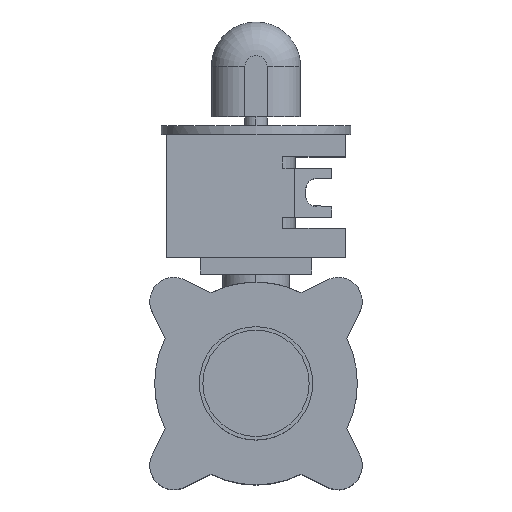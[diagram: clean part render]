
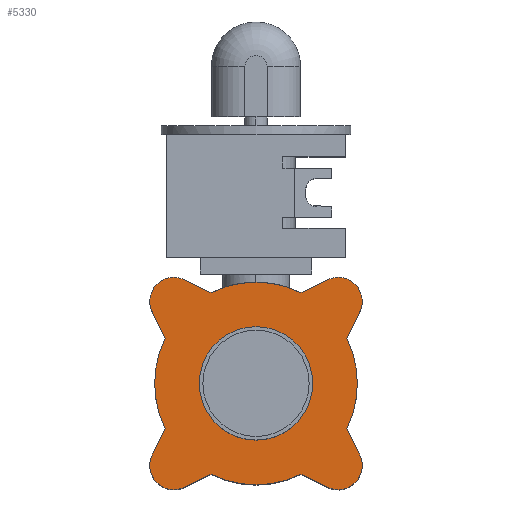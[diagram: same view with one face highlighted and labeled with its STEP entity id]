
A CAD part, top view. The second image highlights one B-rep face of the part: STEP entity #5330.
In plain terms, the highlighted planar face has unit normal (0, 0, 1) as drawn and (-1, 0, 0) by its records, which use the part's own axes.
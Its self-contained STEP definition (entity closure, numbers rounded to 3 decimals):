
#950=CARTESIAN_POINT('',(-75.5,0.,0.));
#960=DIRECTION('',(-1.,0.,0.));
#970=DIRECTION('',(0.,0.,1.));
#980=AXIS2_PLACEMENT_3D('',#950,#960,#970);
#990=CIRCLE('',#980,45.4);
#1000=CARTESIAN_POINT('',(-75.5,14.515,43.017));
#1010=VERTEX_POINT('',#1000);
#1020=CARTESIAN_POINT('',(-75.5,43.017,14.515));
#1030=VERTEX_POINT('',#1020);
#1040=EDGE_CURVE('',#1010,#1030,#990,.T.);
#1660=CARTESIAN_POINT('',(-75.5,14.515,43.017));
#1670=DIRECTION('',(0.,0.326,-0.946));
#1680=VECTOR('',#1670,1.);
#1690=LINE('',#1660,#1680);
#1700=CARTESIAN_POINT('',(-75.5,10.212,55.516));
#1710=VERTEX_POINT('',#1700);
#1720=EDGE_CURVE('',#1710,#1010,#1690,.T.);
#1970=CARTESIAN_POINT('',(-75.5,-43.017,14.515));
#1980=DIRECTION('',(0.,0.946,0.326));
#1990=VECTOR('',#1980,1.);
#2000=LINE('',#1970,#1990);
#2010=CARTESIAN_POINT('',(-75.5,-55.516,10.212));
#2020=VERTEX_POINT('',#2010);
#2030=CARTESIAN_POINT('',(-75.5,-43.017,14.515));
#2040=VERTEX_POINT('',#2030);
#2050=EDGE_CURVE('',#2020,#2040,#2000,.T.);
#2660=CARTESIAN_POINT('',(-75.5,-43.017,-14.515));
#2670=VERTEX_POINT('',#2660);
#2700=CARTESIAN_POINT('',(-75.5,-55.516,-10.212));
#2710=DIRECTION('',(0.,0.946,-0.326));
#2720=VECTOR('',#2710,1.);
#2730=LINE('',#2700,#2720);
#2740=CARTESIAN_POINT('',(-75.5,-55.516,-10.212));
#2750=VERTEX_POINT('',#2740);
#2760=EDGE_CURVE('',#2750,#2670,#2730,.T.);
#3050=CARTESIAN_POINT('',(-75.5,-10.212,55.516));
#3060=VERTEX_POINT('',#3050);
#3090=CARTESIAN_POINT('',(-75.5,0.,52.));
#3100=DIRECTION('',(-1.,0.,0.));
#3110=DIRECTION('',(0.,0.,1.));
#3120=AXIS2_PLACEMENT_3D('',#3090,#3100,#3110);
#3130=CIRCLE('',#3120,10.8);
#3140=EDGE_CURVE('',#3060,#1710,#3130,.T.);
#4180=CARTESIAN_POINT('',(-75.5,0.,-60.65)
);
#4190=DIRECTION('',(1.,0.,-0.));
#4200=DIRECTION('',(0.,0.,1.));
#4210=AXIS2_PLACEMENT_3D('',#4180,#4190,#4200);
#4220=PLANE('',#4210);
#4230=CARTESIAN_POINT('',(-75.5,10.212,-55.516));
#4240=DIRECTION('',(0.,0.326,0.946));
#4250=VECTOR('',#4240,1.);
#4260=LINE('',#4230,#4250);
#4270=CARTESIAN_POINT('',(-75.5,10.212,-55.516));
#4280=VERTEX_POINT('',#4270);
#4290=CARTESIAN_POINT('',(-75.5,14.515,-43.017));
#4300=VERTEX_POINT('',#4290);
#4310=EDGE_CURVE('',#4280,#4300,#4260,.T.);
#4320=ORIENTED_EDGE('',*,*,#4310,.F.);
#4330=CARTESIAN_POINT('',(-75.5,0.,0.));
#4340=DIRECTION('',(-1.,0.,0.));
#4350=DIRECTION('',(0.,0.,1.));
#4360=AXIS2_PLACEMENT_3D('',#4330,#4340,#4350);
#4370=CIRCLE('',#4360,45.4);
#4380=CARTESIAN_POINT('',(-75.5,43.017,-14.515));
#4390=VERTEX_POINT('',#4380);
#4400=EDGE_CURVE('',#4390,#4300,#4370,.T.);
#4410=ORIENTED_EDGE('',*,*,#4400,.T.);
#4420=CARTESIAN_POINT('',(-75.5,55.516,-10.212));
#4430=DIRECTION('',(0.,0.946,0.326));
#4440=VECTOR('',#4430,1.);
#4450=LINE('',#4420,#4440);
#4460=CARTESIAN_POINT('',(-75.5,55.516,-10.212));
#4470=VERTEX_POINT('',#4460);
#4480=EDGE_CURVE('',#4390,#4470,#4450,.T.);
#4490=ORIENTED_EDGE('',*,*,#4480,.F.);
#4500=CARTESIAN_POINT('',(-75.5,52.,0.));
#4510=DIRECTION('',(1.,0.,0.));
#4520=DIRECTION('',(0.,0.,-1.));
#4530=AXIS2_PLACEMENT_3D('',#4500,#4510,#4520);
#4540=CIRCLE('',#4530,10.8);
#4550=CARTESIAN_POINT('',(-75.5,55.516,10.212));
#4560=VERTEX_POINT('',#4550);
#4570=EDGE_CURVE('',#4470,#4560,#4540,.T.);
#4580=ORIENTED_EDGE('',*,*,#4570,.F.);
#4590=CARTESIAN_POINT('',(-75.5,55.516,10.212));
#4600=DIRECTION('',(0.,0.946,-0.326));
#4610=VECTOR('',#4600,1.);
#4620=LINE('',#4590,#4610);
#4630=EDGE_CURVE('',#1030,#4560,#4620,.T.);
#4640=ORIENTED_EDGE('',*,*,#4630,.T.);
#4650=ORIENTED_EDGE('',*,*,#1040,.T.);
#4660=ORIENTED_EDGE('',*,*,#1720,.T.);
#4670=ORIENTED_EDGE('',*,*,#3140,.T.);
#4680=CARTESIAN_POINT('',(-75.5,-10.212,55.516));
#4690=DIRECTION('',(0.,-0.326,-0.946));
#4700=VECTOR('',#4690,1.);
#4710=LINE('',#4680,#4700);
#4720=CARTESIAN_POINT('',(-75.5,-14.515,43.017));
#4730=VERTEX_POINT('',#4720);
#4740=EDGE_CURVE('',#3060,#4730,#4710,.T.);
#4750=ORIENTED_EDGE('',*,*,#4740,.F.);
#4760=CARTESIAN_POINT('',(-75.5,0.,0.));
#4770=DIRECTION('',(-1.,0.,0.));
#4780=DIRECTION('',(0.,0.,1.));
#4790=AXIS2_PLACEMENT_3D('',#4760,#4770,#4780);
#4800=CIRCLE('',#4790,45.4);
#4810=EDGE_CURVE('',#2040,#4730,#4800,.T.);
#4820=ORIENTED_EDGE('',*,*,#4810,.T.);
#4830=ORIENTED_EDGE('',*,*,#2050,.T.);
#4840=CARTESIAN_POINT('',(-75.5,-52.,0.));
#4850=DIRECTION('',(1.,0.,0.));
#4860=DIRECTION('',(0.,0.,-1.));
#4870=AXIS2_PLACEMENT_3D('',#4840,#4850,#4860);
#4880=CIRCLE('',#4870,10.8);
#4890=EDGE_CURVE('',#2020,#2750,#4880,.T.);
#4900=ORIENTED_EDGE('',*,*,#4890,.F.);
#4910=ORIENTED_EDGE('',*,*,#2760,.F.);
#4920=CARTESIAN_POINT('',(-75.5,0.,0.));
#4930=DIRECTION('',(-1.,0.,0.));
#4940=DIRECTION('',(0.,0.,1.));
#4950=AXIS2_PLACEMENT_3D('',#4920,#4930,#4940);
#4960=CIRCLE('',#4950,45.4);
#4970=CARTESIAN_POINT('',(-75.5,-14.515,-43.017));
#4980=VERTEX_POINT('',#4970);
#4990=EDGE_CURVE('',#4980,#2670,#4960,.T.);
#5000=ORIENTED_EDGE('',*,*,#4990,.T.);
#5010=CARTESIAN_POINT('',(-75.5,-10.212,-55.516));
#5020=DIRECTION('',(0.,0.326,-0.946));
#5030=VECTOR('',#5020,1.);
#5040=LINE('',#5010,#5030);
#5050=CARTESIAN_POINT('',(-75.5,-10.212,-55.516));
#5060=VERTEX_POINT('',#5050);
#5070=EDGE_CURVE('',#4980,#5060,#5040,.T.);
#5080=ORIENTED_EDGE('',*,*,#5070,.F.);
#5090=CARTESIAN_POINT('',(-75.5,0.,-52.));
#5100=DIRECTION('',(1.,0.,0.));
#5110=DIRECTION('',(0.,0.,-1.));
#5120=AXIS2_PLACEMENT_3D('',#5090,#5100,#5110);
#5130=CIRCLE('',#5120,10.8);
#5140=EDGE_CURVE('',#5060,#4280,#5130,.T.);
#5150=ORIENTED_EDGE('',*,*,#5140,.F.);
#5160=EDGE_LOOP('',(#5150,#5080,#5000,#4910,#4900,#4830,#4820,#4750,
#4670,#4660,#4650,#4640,#4580,#4490,#4410,#4320));
#5170=FACE_OUTER_BOUND('',#5160,.T.);
#5180=CARTESIAN_POINT('',(-75.5,0.,0.));
#5190=DIRECTION('',(-1.,0.,0.));
#5200=DIRECTION('',(0.,-0.707,0.707));
#5210=AXIS2_PLACEMENT_3D('',#5180,#5190,#5200);
#5220=CIRCLE('',#5210,25.4);
#5230=CARTESIAN_POINT('',(-75.5,17.961,-17.961));
#5240=VERTEX_POINT('',#5230);
#5250=CARTESIAN_POINT('',(-75.5,-17.961,17.961));
#5260=VERTEX_POINT('',#5250);
#5270=EDGE_CURVE('',#5240,#5260,#5220,.T.);
#5280=ORIENTED_EDGE('',*,*,#5270,.F.);
#5290=EDGE_CURVE('',#5260,#5240,#5220,.T.);
#5300=ORIENTED_EDGE('',*,*,#5290,.F.);
#5310=EDGE_LOOP('',(#5300,#5280));
#5320=FACE_BOUND('',#5310,.T.);
#5330=ADVANCED_FACE('',(#5170,#5320),#4220,.F.);
